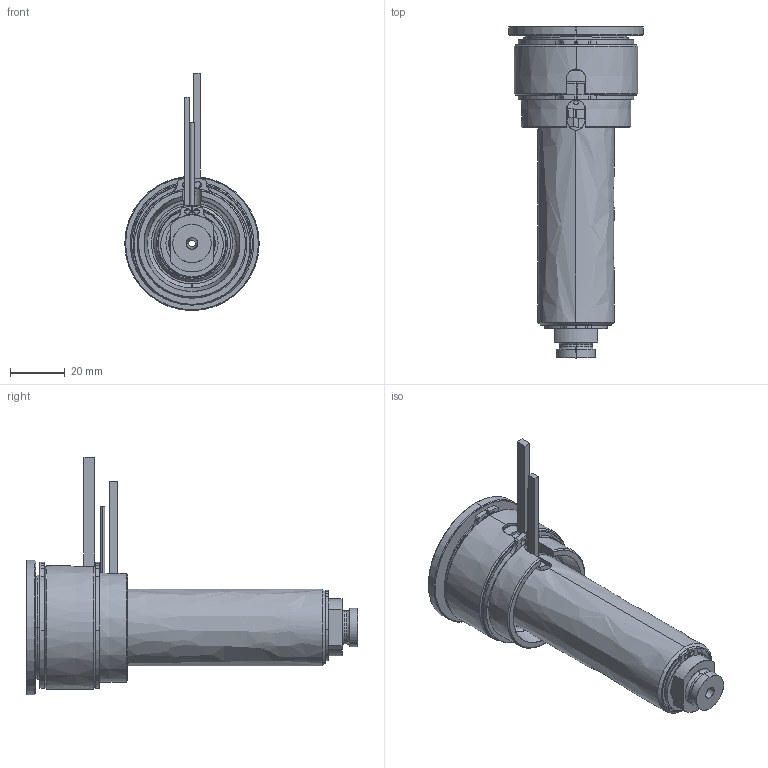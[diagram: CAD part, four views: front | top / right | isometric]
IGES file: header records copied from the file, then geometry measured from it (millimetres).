
Start section: SolidWorks IGES file using analytic representation for surfaces
Global section: file name: C:\Documents and Settings\ws-20\Desktop\TEM\UGBE4502-S-A-5 [Ød-2.5 P-0 ØC-10].IGS; native system: SolidWorks 2012; preprocessor: SolidWorks 2012; author: ws-20; date: 120412.154506; units: millimetre
Bounding box: 49 x 121 x 86.5 mm (x, y, z)
Surface area: 48304.1 mm2 (no closed solid volume)
Topology: 0 solids, 0 shells, 168 faces, 3209 edges, 3209 vertices
Faces by surface type: revolution 106, bspline 62
